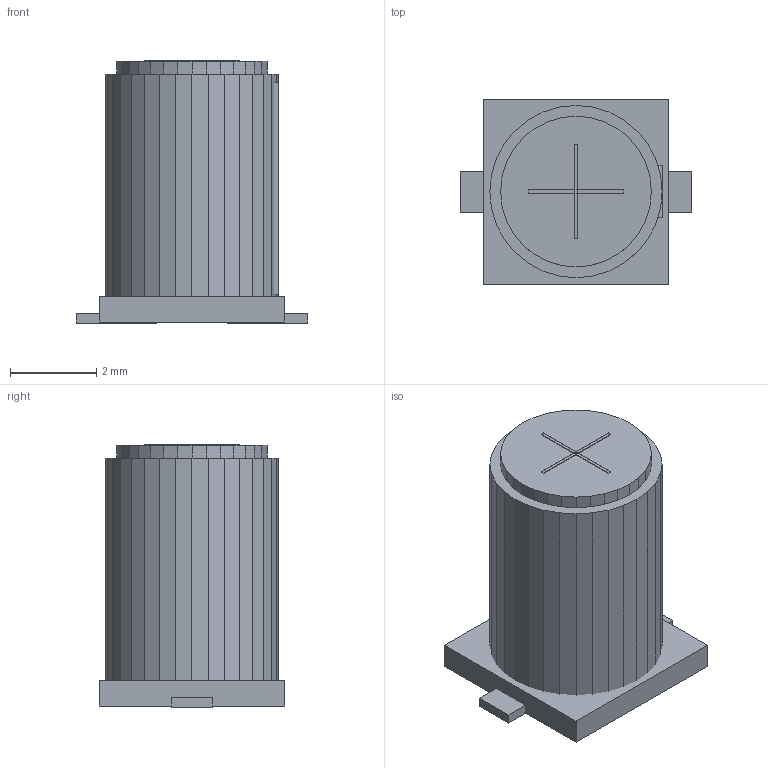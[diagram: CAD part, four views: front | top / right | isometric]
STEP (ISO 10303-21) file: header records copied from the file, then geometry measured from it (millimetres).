
FILE_DESCRIPTION(('FreeCAD Model'),'2;1');
FILE_NAME('Open CASCADE Shape Model','2026-09-21T21:53:17',('FreeCAD'),( 'FreeCAD'),'Open CASCADE STEP processor 7.8','FreeCAD','Unknown');
FILE_SCHEMA(('AUTOMOTIVE_DESIGN { 1 0 10303 214 1 1 1 1 }'));
Length unit declared in the file: millimetre
Products named in the file (1): Open CASCADE STEP translator 7.8 16
Bounding box: 5.38 x 4.3 x 6.09 mm (x, y, z)
Volume: 81.5 mm3; surface area: 186 mm2
Topology: 8 solids, 8 shells, 104 faces, 264 edges, 176 vertices
Faces by surface type: plane 104
Entity records: 3064 total; most frequent: CARTESIAN_POINT 545, ORIENTED_EDGE 528, DIRECTION 474, EDGE_CURVE 264, LINE 264, VECTOR 264, VERTEX_POINT 176, AXIS2_PLACEMENT_3D 105
